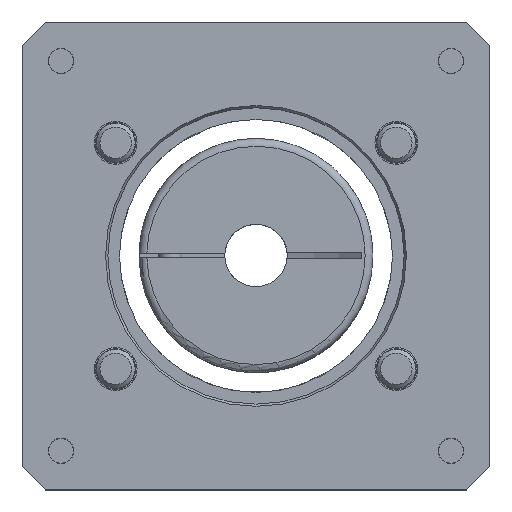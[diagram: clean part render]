
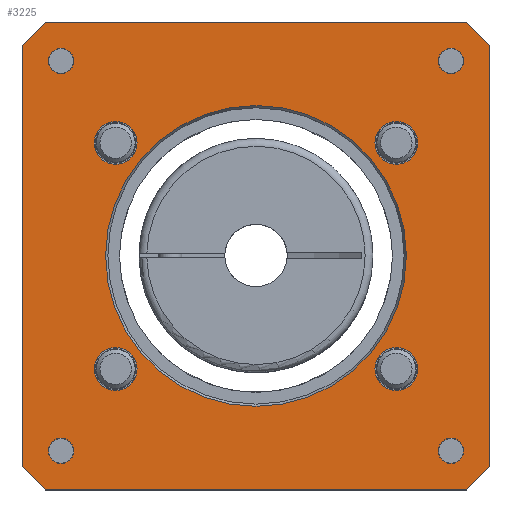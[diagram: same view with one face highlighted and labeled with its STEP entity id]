
A CAD part, top view. The second image highlights one B-rep face of the part: STEP entity #3225.
In plain terms, the highlighted planar face has unit normal (0, 0, 1) as drawn and (0, 0, -1) by its records, which use the part's own axes.
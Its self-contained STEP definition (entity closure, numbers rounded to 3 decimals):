
#228=FACE_BOUND($,#713,.T.);
#229=FACE_BOUND($,#714,.T.);
#230=FACE_BOUND($,#715,.T.);
#231=FACE_BOUND($,#716,.T.);
#232=FACE_BOUND($,#717,.T.);
#233=FACE_BOUND($,#718,.T.);
#234=FACE_BOUND($,#719,.T.);
#235=FACE_BOUND($,#720,.T.);
#236=FACE_BOUND($,#721,.T.);
#354=CIRCLE($,#3463,19.289);
#355=CIRCLE($,#3465,2.75);
#356=CIRCLE($,#3466,2.75);
#357=CIRCLE($,#3467,2.75);
#358=CIRCLE($,#3468,2.75);
#359=CIRCLE($,#3469,1.621);
#360=CIRCLE($,#3470,1.621);
#361=CIRCLE($,#3471,1.621);
#362=CIRCLE($,#3472,1.621);
#528=FACE_OUTER_BOUND($,#712,.T.);
#712=EDGE_LOOP($,(#2383,#2384,#2385,#2386,#2387,#2388,#2389,#2390));
#713=EDGE_LOOP($,(#2391));
#714=EDGE_LOOP($,(#2392));
#715=EDGE_LOOP($,(#2393));
#716=EDGE_LOOP($,(#2394));
#717=EDGE_LOOP($,(#2395));
#718=EDGE_LOOP($,(#2396));
#719=EDGE_LOOP($,(#2397));
#720=EDGE_LOOP($,(#2398));
#721=EDGE_LOOP($,(#2399));
#1010=LINE($,#4902,#1262);
#1011=LINE($,#4904,#1263);
#1012=LINE($,#4906,#1264);
#1013=LINE($,#4908,#1265);
#1014=LINE($,#4910,#1266);
#1015=LINE($,#4912,#1267);
#1016=LINE($,#4914,#1268);
#1017=LINE($,#4915,#1269);
#1262=VECTOR($,#3929,4.243);
#1263=VECTOR($,#3930,54.);
#1264=VECTOR($,#3931,4.243);
#1265=VECTOR($,#3932,54.);
#1266=VECTOR($,#3933,4.243);
#1267=VECTOR($,#3934,54.);
#1268=VECTOR($,#3935,4.243);
#1269=VECTOR($,#3936,54.);
#1548=VERTEX_POINT($,#4897);
#1549=VERTEX_POINT($,#4900);
#1550=VERTEX_POINT($,#4901);
#1551=VERTEX_POINT($,#4903);
#1552=VERTEX_POINT($,#4905);
#1553=VERTEX_POINT($,#4907);
#1554=VERTEX_POINT($,#4909);
#1555=VERTEX_POINT($,#4911);
#1556=VERTEX_POINT($,#4913);
#1557=VERTEX_POINT($,#4916);
#1558=VERTEX_POINT($,#4918);
#1559=VERTEX_POINT($,#4920);
#1560=VERTEX_POINT($,#4922);
#1561=VERTEX_POINT($,#4924);
#1562=VERTEX_POINT($,#4926);
#1563=VERTEX_POINT($,#4928);
#1564=VERTEX_POINT($,#4930);
#1884=EDGE_CURVE($,#1548,#1548,#354,.T.);
#1885=EDGE_CURVE($,#1549,#1550,#1010,.T.);
#1886=EDGE_CURVE($,#1549,#1551,#1011,.T.);
#1887=EDGE_CURVE($,#1552,#1551,#1012,.T.);
#1888=EDGE_CURVE($,#1552,#1553,#1013,.T.);
#1889=EDGE_CURVE($,#1554,#1553,#1014,.T.);
#1890=EDGE_CURVE($,#1554,#1555,#1015,.T.);
#1891=EDGE_CURVE($,#1556,#1555,#1016,.T.);
#1892=EDGE_CURVE($,#1556,#1550,#1017,.T.);
#1893=EDGE_CURVE($,#1557,#1557,#355,.T.);
#1894=EDGE_CURVE($,#1558,#1558,#356,.T.);
#1895=EDGE_CURVE($,#1559,#1559,#357,.T.);
#1896=EDGE_CURVE($,#1560,#1560,#358,.T.);
#1897=EDGE_CURVE($,#1561,#1561,#359,.T.);
#1898=EDGE_CURVE($,#1562,#1562,#360,.T.);
#1899=EDGE_CURVE($,#1563,#1563,#361,.T.);
#1900=EDGE_CURVE($,#1564,#1564,#362,.T.);
#2383=ORIENTED_EDGE($,*,*,#1885,.F.);
#2384=ORIENTED_EDGE($,*,*,#1886,.T.);
#2385=ORIENTED_EDGE($,*,*,#1887,.F.);
#2386=ORIENTED_EDGE($,*,*,#1888,.T.);
#2387=ORIENTED_EDGE($,*,*,#1889,.F.);
#2388=ORIENTED_EDGE($,*,*,#1890,.T.);
#2389=ORIENTED_EDGE($,*,*,#1891,.F.);
#2390=ORIENTED_EDGE($,*,*,#1892,.T.);
#2391=ORIENTED_EDGE($,*,*,#1893,.T.);
#2392=ORIENTED_EDGE($,*,*,#1894,.T.);
#2393=ORIENTED_EDGE($,*,*,#1895,.T.);
#2394=ORIENTED_EDGE($,*,*,#1896,.T.);
#2395=ORIENTED_EDGE($,*,*,#1897,.T.);
#2396=ORIENTED_EDGE($,*,*,#1898,.T.);
#2397=ORIENTED_EDGE($,*,*,#1899,.T.);
#2398=ORIENTED_EDGE($,*,*,#1900,.T.);
#2399=ORIENTED_EDGE($,*,*,#1884,.F.);
#3089=PLANE($,#3464);
#3225=ADVANCED_FACE($,(#528,#228,#229,#230,#231,#232,#233,#234,#235,#236),
#3089,.F.);
#3463=AXIS2_PLACEMENT_3D($,#4898,#3925,#3926);
#3464=AXIS2_PLACEMENT_3D($,#4899,#3927,#3928);
#3465=AXIS2_PLACEMENT_3D($,#4917,#3937,#3938);
#3466=AXIS2_PLACEMENT_3D($,#4919,#3939,#3940);
#3467=AXIS2_PLACEMENT_3D($,#4921,#3941,#3942);
#3468=AXIS2_PLACEMENT_3D($,#4923,#3943,#3944);
#3469=AXIS2_PLACEMENT_3D($,#4925,#3945,#3946);
#3470=AXIS2_PLACEMENT_3D($,#4927,#3947,#3948);
#3471=AXIS2_PLACEMENT_3D($,#4929,#3949,#3950);
#3472=AXIS2_PLACEMENT_3D($,#4931,#3951,#3952);
#3925=DIRECTION('center_axis',(0.,0.,-1.));
#3926=DIRECTION('ref_axis',(0.,-1.,0.));
#3927=DIRECTION('center_axis',(0.,0.,1.));
#3928=DIRECTION('ref_axis',(1.,0.,0.));
#3929=DIRECTION($,(-0.707,0.707,0.));
#3930=DIRECTION($,(0.,-1.,0.));
#3931=DIRECTION($,(0.707,0.707,0.));
#3932=DIRECTION($,(-1.,0.,0.));
#3933=DIRECTION($,(0.707,-0.707,0.));
#3934=DIRECTION($,(0.,1.,0.));
#3935=DIRECTION($,(-0.707,-0.707,0.));
#3936=DIRECTION($,(1.,0.,0.));
#3937=DIRECTION('center_axis',(0.,0.,1.));
#3938=DIRECTION('ref_axis',(1.,0.,0.));
#3939=DIRECTION('center_axis',(0.,0.,1.));
#3940=DIRECTION('ref_axis',(1.,0.,0.));
#3941=DIRECTION('center_axis',(0.,0.,1.));
#3942=DIRECTION('ref_axis',(1.,0.,0.));
#3943=DIRECTION('center_axis',(0.,0.,1.));
#3944=DIRECTION('ref_axis',(1.,0.,0.));
#3945=DIRECTION('center_axis',(0.,0.,1.));
#3946=DIRECTION('ref_axis',(1.,0.,0.));
#3947=DIRECTION('center_axis',(0.,0.,1.));
#3948=DIRECTION('ref_axis',(1.,0.,0.));
#3949=DIRECTION('center_axis',(0.,0.,1.));
#3950=DIRECTION('ref_axis',(1.,0.,0.));
#3951=DIRECTION('center_axis',(0.,0.,1.));
#3952=DIRECTION('ref_axis',(1.,0.,0.));
#4897=CARTESIAN_POINT('',(0.,19.289,0.));
#4898=CARTESIAN_POINT('Origin',(0.,0.,0.));
#4899=CARTESIAN_POINT('Origin',(0.,0.,
0.));
#4900=CARTESIAN_POINT('',(30.,27.,0.));
#4901=CARTESIAN_POINT('',(27.,30.,0.));
#4902=CARTESIAN_POINT($,(28.5,28.5,0.));
#4903=CARTESIAN_POINT('',(30.,-27.,0.));
#4904=CARTESIAN_POINT($,(30.,30.,0.));
#4905=CARTESIAN_POINT('',(27.,-30.,0.));
#4906=CARTESIAN_POINT($,(28.5,-28.5,0.));
#4907=CARTESIAN_POINT('',(-27.,-30.,0.));
#4908=CARTESIAN_POINT($,(30.,-30.,0.));
#4909=CARTESIAN_POINT('',(-30.,-27.,0.));
#4910=CARTESIAN_POINT($,(-28.5,-28.5,0.));
#4911=CARTESIAN_POINT('',(-30.,27.,0.));
#4912=CARTESIAN_POINT($,(-30.,-30.,0.));
#4913=CARTESIAN_POINT('',(-27.,30.,0.));
#4914=CARTESIAN_POINT($,(-28.5,28.5,0.));
#4915=CARTESIAN_POINT($,(-30.,30.,0.));
#4916=CARTESIAN_POINT('',(-20.75,14.5,0.));
#4917=CARTESIAN_POINT('Origin',(-18.,14.5,0.));
#4918=CARTESIAN_POINT('',(-20.75,-14.5,0.));
#4919=CARTESIAN_POINT('Origin',(-18.,-14.5,0.));
#4920=CARTESIAN_POINT('',(15.25,-14.5,0.));
#4921=CARTESIAN_POINT('Origin',(18.,-14.5,0.));
#4922=CARTESIAN_POINT('',(15.25,14.5,0.));
#4923=CARTESIAN_POINT('Origin',(18.,14.5,0.));
#4924=CARTESIAN_POINT('',(-26.621,25.,0.));
#4925=CARTESIAN_POINT('Origin',(-25.,25.,0.));
#4926=CARTESIAN_POINT('',(23.379,25.,0.));
#4927=CARTESIAN_POINT('Origin',(25.,25.,0.));
#4928=CARTESIAN_POINT('',(23.379,-25.,0.));
#4929=CARTESIAN_POINT('Origin',(25.,-25.,0.));
#4930=CARTESIAN_POINT('',(-26.621,-25.,0.));
#4931=CARTESIAN_POINT('Origin',(-25.,-25.,0.));
